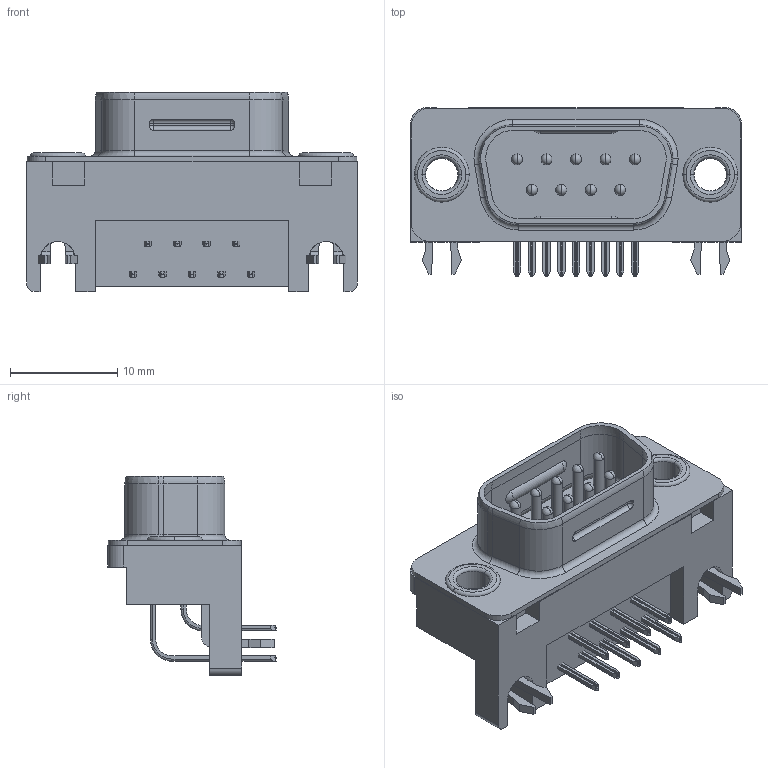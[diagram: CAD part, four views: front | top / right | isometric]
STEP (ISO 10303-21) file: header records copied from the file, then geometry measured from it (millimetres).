
FILE_DESCRIPTION (( 'STEP AP203' ), '1' );
FILE_NAME ('17LE-23090-27(D41)-FA.STEP', '2022-01-24T10:19:41', ( '' ), ( '' ), 'SwSTEP 2.0', 'SolidWorks 2018', '' );
FILE_SCHEMA (( 'CONFIG_CONTROL_DESIGN' ));
Length unit declared in the file: millimetre
Products named in the file (1): 17LE-23090-27(D41)-FA
Bounding box: 30.8 x 15.69 x 18.53 mm (x, y, z)
Volume: 2454.4 mm3; surface area: 3239 mm2
Topology: 1 solids, 3 shells, 713 faces, 1942 edges, 1225 vertices
Faces by surface type: plane 322, cylinder 271, torus 90, sphere 30
Entity records: 22663 total; most frequent: CARTESIAN_POINT 4293, DIRECTION 3966, ORIENTED_EDGE 3816, EDGE_CURVE 1908, AXIS2_PLACEMENT_3D 1422, VERTEX_POINT 1221, VECTOR 1122, LINE 1122
